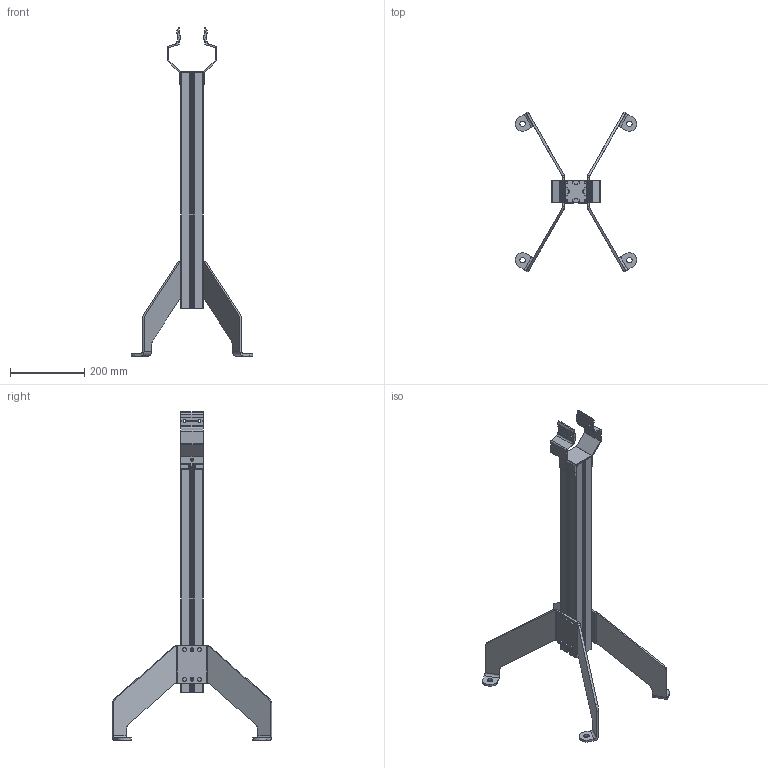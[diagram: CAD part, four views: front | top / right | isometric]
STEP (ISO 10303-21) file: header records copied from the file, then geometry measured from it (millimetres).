
FILE_DESCRIPTION((''),'2;1');
FILE_NAME('C:\Vault Klient\Projekt\Koncept konstruktion\Benstöd\100-1380.stp','2009-12-03T10:09:24',('Mathias'),(''),'Autodesk Inventor 2010','Autodesk Inventor 2010','');
FILE_SCHEMA(('CONFIG_CONTROL_DESIGN'));
Length unit declared in the file: millimetre
Products named in the file (5): 100-1380; 100-1015-02; 100-1155; 100-1225; 100-2040
Assembly tree (6 placements, depth 2):
  100-1380
    100-1015-02
    100-1155  x2
    100-1225  x2
    100-2040
Bounding box: 327.93 x 430.57 x 885 mm (x, y, z)
Volume: 2581753.4 mm3; surface area: 539182.8 mm2
Topology: 6 solids, 6 shells, 346 faces, 980 edges, 642 vertices
Faces by surface type: plane 188, cylinder 120, bspline 30, torus 4, sphere 4
Full cylindrical faces by diameter (mm): 5.5 x4
Entity records: 8519 total; most frequent: CARTESIAN_POINT 2187, DIRECTION 1304, ORIENTED_EDGE 1276, EDGE_CURVE 638, AXIS2_PLACEMENT_3D 439, VERTEX_POINT 428, VECTOR 426, LINE 426
